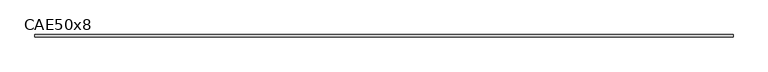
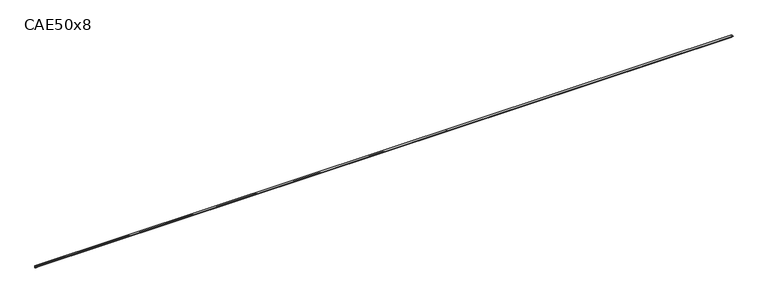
"""IFC4 building model written with IfcOpenShell, lengths in millimetres: beam geometry, L-Cornières : CAE50x8."""

from ifc_helpers import new_model, si_unit, point, frame, frame_2d, origin, place, context, project, spatial, polyline, circle_curve, trimmed, segment, composite_curve, outline, extrude, source, transform, mapped, element, save


def cae50x8_a9cd234b(model_context):
    return source(origin(), model_context, "Body", "SweptSolid", [
        extrude(outline(composite_curve([segment(polyline([(15.2, 15.2), (15.2, -34.8)]), True, "CONTINUOUS"), segment(trimmed(circle_curve(frame_2d((15.2, -26.8)), 8.0), [point((15.2, -34.8))], [point((7.2, -26.8))], False, "CARTESIAN"), True, "CONTINUOUS"), segment(polyline([(7.2, -26.8), (7.2, -0.8)]), True, "CONTINUOUS"), segment(trimmed(circle_curve(frame_2d((-0.8, -0.8)), 8.0), [point((7.2, -0.8))], [point((-0.8, 7.2))], True, "CARTESIAN"), True, "CONTINUOUS"), segment(polyline([(-0.8, 7.2), (-26.8, 7.2)]), True, "CONTINUOUS"), segment(trimmed(circle_curve(frame_2d((-26.8, 15.2)), 8.0), [point((-26.8, 7.2))], [point((-34.8, 15.2))], False, "CARTESIAN"), True, "CONTINUOUS"), segment(polyline([(-34.8, 15.2), (15.2, 15.2)]), True, "CONTINUOUS")], self_intersect=False)), frame((-7862.5, 0.0, 0.0), z_axis=(1.0, 0.0, 0.0), x_axis=(0.0, 1.0, 0.0)), (0.0, 0.0, 1.0), 15725.0),
    ])


if __name__ == "__main__":
    model = new_model("IFC4")
    model_context = context("Model", 3, world=origin())
    ifc_project = project(units=[si_unit("LENGTHUNIT", "METRE", prefix="MILLI")], contexts=[model_context])
    site = spatial("IfcSite", under=ifc_project)
    building = spatial("IfcBuilding", under=site)
    placement = place(None, origin())
    cae50x8_shape = cae50x8_a9cd234b(model_context)
    element("IfcBeam", 1, ObjectType="L-Cornières : CAE50x8", at=placement, inside=building, context=model_context, shape_type="MappedRepresentation", body=[
        mapped(cae50x8_shape, transform((0.0, 0.0, 0.0), x_axis=(1.0, 0.0, 0.0), y_axis=(0.0, 1.0, 0.0), z_axis=(0.0, 0.0, 1.0))),
    ])
    save(model, "model.ifc")
